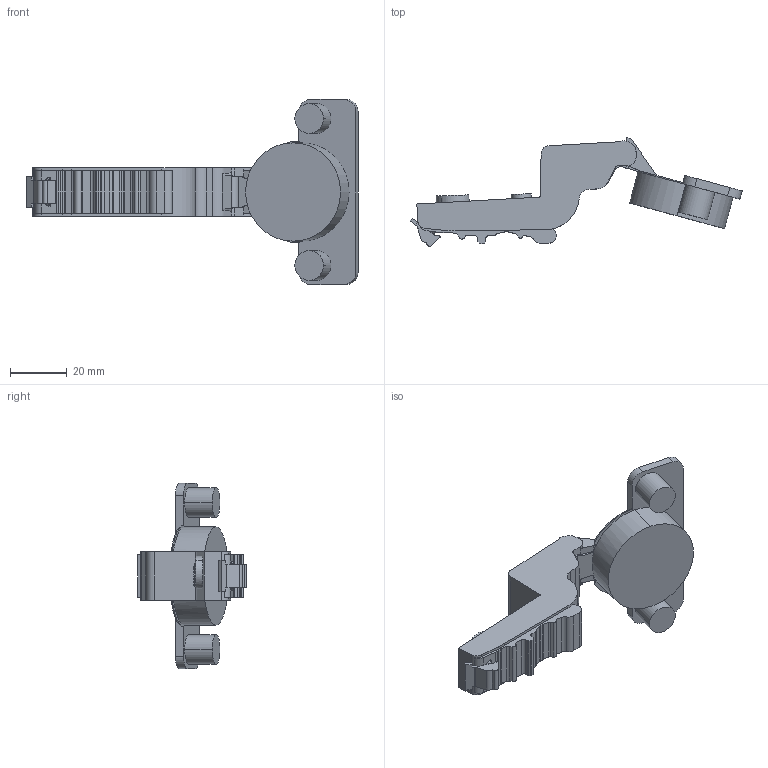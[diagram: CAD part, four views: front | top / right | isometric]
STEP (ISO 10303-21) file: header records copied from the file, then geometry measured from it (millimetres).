
FILE_DESCRIPTION (( 'STEP AP203' ), '1' );
FILE_NAME ('C82C677MFA-DTC 3D open.STEP', '2024-07-10T09:07:21', ( '微软用户' ), ( '微软中国' ), 'SwSTEP 2.0', 'SolidWorks 2021', '' );
FILE_SCHEMA (( 'CONFIG_CONTROL_DESIGN' ));
Length unit declared in the file: millimetre
Products named in the file (1): C82C677MFA-DTC 3D open
Bounding box: 117.51 x 38.46 x 65.56 mm (x, y, z)
Volume: 38131.8 mm3; surface area: 12550 mm2
Topology: 1 solids, 1 shells, 210 faces, 604 edges, 400 vertices
Faces by surface type: plane 96, cylinder 90, torus 12, bspline 8, cone 4
Entity records: 7242 total; most frequent: CARTESIAN_POINT 1608, ORIENTED_EDGE 1208, DIRECTION 1162, EDGE_CURVE 604, AXIS2_PLACEMENT_3D 414, VERTEX_POINT 400, VECTOR 334, LINE 334
